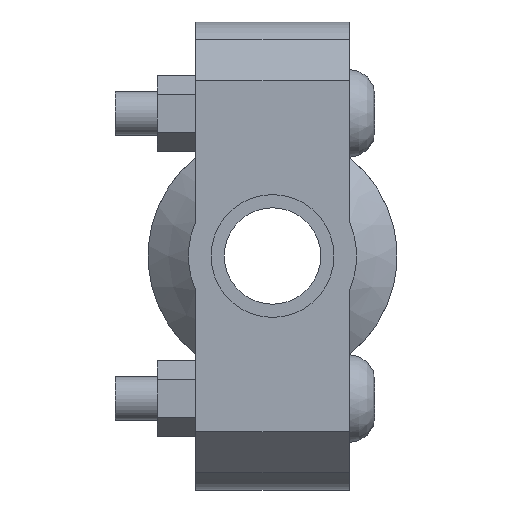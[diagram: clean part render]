
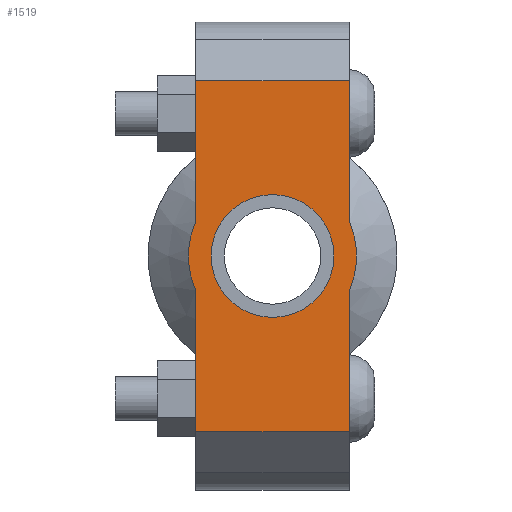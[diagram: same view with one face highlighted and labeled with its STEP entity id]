
A CAD part, left-side view. The second image highlights one B-rep face of the part: STEP entity #1519.
In plain terms, the highlighted planar face has unit normal (-1, 0, 0) as drawn and (0, 0, 1) by its records, which use the part's own axes.
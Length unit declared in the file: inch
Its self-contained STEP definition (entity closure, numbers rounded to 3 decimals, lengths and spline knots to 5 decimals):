
#130=LINE('',#2609,#225);
#145=LINE('',#2668,#240);
#153=LINE('',#2698,#248);
#155=LINE('',#2701,#250);
#156=LINE('',#2706,#251);
#157=LINE('',#2707,#252);
#225=VECTOR('',#2111,0.3937);
#240=VECTOR('',#2146,0.3937);
#248=VECTOR('',#2166,0.3937);
#250=VECTOR('',#2170,0.3937);
#251=VECTOR('',#2175,0.3937);
#252=VECTOR('',#2176,0.3937);
#312=FACE_BOUND('',#471,.T.);
#372=FACE_OUTER_BOUND('',#470,.T.);
#470=EDGE_LOOP('',(#1214,#1215,#1216,#1217,#1218,#1219,#1220,#1221));
#471=EDGE_LOOP('',(#1222));
#576=CIRCLE('',#1782,0.719);
#577=CIRCLE('',#1783,0.719);
#578=CIRCLE('',#1784,0.525);
#685=VERTEX_POINT('',#2606);
#686=VERTEX_POINT('',#2608);
#707=VERTEX_POINT('',#2663);
#708=VERTEX_POINT('',#2667);
#717=VERTEX_POINT('',#2693);
#718=VERTEX_POINT('',#2697);
#719=VERTEX_POINT('',#2703);
#720=VERTEX_POINT('',#2705);
#721=VERTEX_POINT('',#2709);
#855=EDGE_CURVE('',#686,#685,#130,.T.);
#880=EDGE_CURVE('',#708,#707,#145,.T.);
#893=EDGE_CURVE('',#718,#717,#153,.T.);
#895=EDGE_CURVE('',#718,#685,#155,.T.);
#896=EDGE_CURVE('',#717,#719,#576,.T.);
#897=EDGE_CURVE('',#719,#720,#156,.T.);
#898=EDGE_CURVE('',#708,#720,#157,.T.);
#899=EDGE_CURVE('',#707,#686,#577,.T.);
#900=EDGE_CURVE('',#721,#721,#578,.T.);
#1214=ORIENTED_EDGE('',*,*,#895,.F.);
#1215=ORIENTED_EDGE('',*,*,#893,.T.);
#1216=ORIENTED_EDGE('',*,*,#896,.T.);
#1217=ORIENTED_EDGE('',*,*,#897,.T.);
#1218=ORIENTED_EDGE('',*,*,#898,.F.);
#1219=ORIENTED_EDGE('',*,*,#880,.T.);
#1220=ORIENTED_EDGE('',*,*,#899,.T.);
#1221=ORIENTED_EDGE('',*,*,#855,.T.);
#1222=ORIENTED_EDGE('',*,*,#900,.T.);
#1371=PLANE('',#1781);
#1519=ADVANCED_FACE('',(#372,#312),#1371,.T.);
#1781=AXIS2_PLACEMENT_3D('',#2702,#2171,#2172);
#1782=AXIS2_PLACEMENT_3D('',#2704,#2173,#2174);
#1783=AXIS2_PLACEMENT_3D('',#2708,#2177,#2178);
#1784=AXIS2_PLACEMENT_3D('',#2710,#2179,#2180);
#2111=DIRECTION('',(1.,0.,0.));
#2146=DIRECTION('',(1.,0.,0.));
#2166=DIRECTION('',(-1.,0.,0.));
#2170=DIRECTION('',(0.,-1.,0.));
#2171=DIRECTION('center_axis',(0.,0.,1.));
#2172=DIRECTION('ref_axis',(-1.,0.,0.));
#2173=DIRECTION('center_axis',(0.,0.,1.));
#2174=DIRECTION('ref_axis',(1.,0.,0.));
#2175=DIRECTION('',(-1.,0.,0.));
#2176=DIRECTION('',(0.,1.,0.));
#2177=DIRECTION('center_axis',(0.,0.,1.));
#2178=DIRECTION('ref_axis',(1.,0.,0.));
#2179=DIRECTION('center_axis',(0.,0.,-1.));
#2180=DIRECTION('ref_axis',(1.,0.,0.));
#2606=CARTESIAN_POINT('',(1.5,-0.656,0.875));
#2608=CARTESIAN_POINT('',(0.29432,-0.656,0.875));
#2609=CARTESIAN_POINT('',(-2.,-0.656,0.875));
#2663=CARTESIAN_POINT('',(-0.29432,-0.656,0.875));
#2667=CARTESIAN_POINT('',(-1.5,-0.656,0.875));
#2668=CARTESIAN_POINT('',(-2.,-0.656,0.875));
#2693=CARTESIAN_POINT('',(0.29432,0.656,0.875));
#2697=CARTESIAN_POINT('',(1.5,0.656,0.875));
#2698=CARTESIAN_POINT('',(2.,0.656,0.875));
#2701=CARTESIAN_POINT('',(1.5,-0.328,0.875));
#2702=CARTESIAN_POINT('Origin',(0.,0.,
0.875));
#2703=CARTESIAN_POINT('',(-0.29432,0.656,0.875));
#2704=CARTESIAN_POINT('Origin',(0.,0.,0.875));
#2705=CARTESIAN_POINT('',(-1.5,0.656,0.875));
#2706=CARTESIAN_POINT('',(2.,0.656,0.875));
#2707=CARTESIAN_POINT('',(-1.5,0.328,0.875));
#2708=CARTESIAN_POINT('Origin',(0.,0.,0.875));
#2709=CARTESIAN_POINT('',(-0.525,0.,0.875));
#2710=CARTESIAN_POINT('Origin',(0.,0.,0.875));
